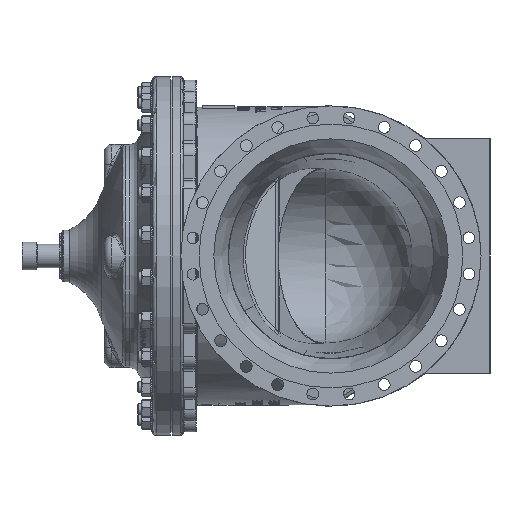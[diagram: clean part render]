
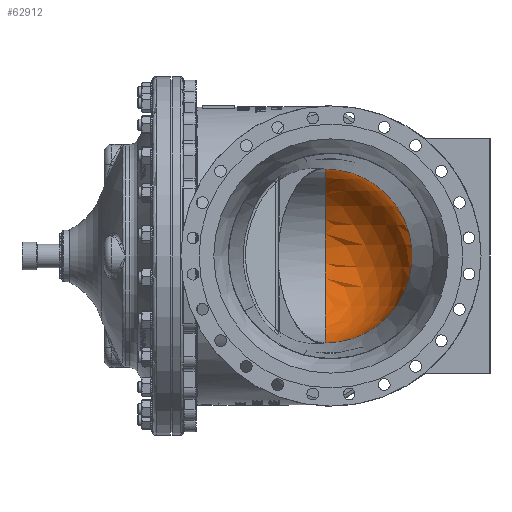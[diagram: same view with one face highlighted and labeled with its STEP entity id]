
A CAD part, left-side view. The second image highlights one B-rep face of the part: STEP entity #62912.
In plain terms, the highlighted spherical face has radius 298 mm.
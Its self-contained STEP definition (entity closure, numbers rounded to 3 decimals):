
#16=SPHERICAL_SURFACE('',#67753,298.);
#12570=FACE_OUTER_BOUND('',#16683,.T.);
#16683=EDGE_LOOP('',(#47793,#47794,#47795,#47796,#47797,#47798,#47799,#47800));
#19333=CIRCLE('',#66028,298.);
#19655=CIRCLE('',#66803,298.);
#19656=CIRCLE('',#66804,298.);
#19657=CIRCLE('',#66805,298.);
#20234=CIRCLE('',#67746,298.);
#20235=CIRCLE('',#67747,298.);
#20236=CIRCLE('',#67749,297.617);
#20237=CIRCLE('',#67751,297.617);
#23587=VERTEX_POINT('',#92193);
#23588=VERTEX_POINT('',#92195);
#24852=VERTEX_POINT('',#151020);
#24853=VERTEX_POINT('',#151025);
#24854=VERTEX_POINT('',#151027);
#24855=VERTEX_POINT('',#151029);
#25528=VERTEX_POINT('',#169200);
#25529=VERTEX_POINT('',#169222);
#30505=EDGE_CURVE('',#23587,#23588,#19333,.T.);
#32355=EDGE_CURVE('',#24852,#24853,#19655,.T.);
#32356=EDGE_CURVE('',#24853,#24854,#19656,.T.);
#32357=EDGE_CURVE('',#24854,#24855,#19657,.T.);
#33596=EDGE_CURVE('',#24855,#25528,#20234,.T.);
#33599=EDGE_CURVE('',#25529,#24852,#20235,.T.);
#33600=EDGE_CURVE('',#23587,#25528,#20236,.T.);
#33601=EDGE_CURVE('',#25529,#23588,#20237,.T.);
#47793=ORIENTED_EDGE('',*,*,#33599,.F.);
#47794=ORIENTED_EDGE('',*,*,#33601,.T.);
#47795=ORIENTED_EDGE('',*,*,#30505,.F.);
#47796=ORIENTED_EDGE('',*,*,#33600,.T.);
#47797=ORIENTED_EDGE('',*,*,#33596,.F.);
#47798=ORIENTED_EDGE('',*,*,#32357,.F.);
#47799=ORIENTED_EDGE('',*,*,#32356,.F.);
#47800=ORIENTED_EDGE('',*,*,#32355,.F.);
#62912=ADVANCED_FACE('',(#12570),#16,.F.);
#66028=AXIS2_PLACEMENT_3D('',#92196,#74657,#74658);
#66803=AXIS2_PLACEMENT_3D('',#151026,#76946,#76947);
#66804=AXIS2_PLACEMENT_3D('',#151028,#76948,#76949);
#66805=AXIS2_PLACEMENT_3D('',#151030,#76950,#76951);
#67746=AXIS2_PLACEMENT_3D('',#169201,#79101,#79102);
#67747=AXIS2_PLACEMENT_3D('',#169227,#79103,#79104);
#67749=AXIS2_PLACEMENT_3D('',#169229,#79107,#79108);
#67751=AXIS2_PLACEMENT_3D('',#169231,#79111,#79112);
#67753=AXIS2_PLACEMENT_3D('',#169289,#79115,#79116);
#74657=DIRECTION('center_axis',(0.,-1.,0.));
#74658=DIRECTION('ref_axis',(0.,0.,
-1.));
#76946=DIRECTION('center_axis',(1.,0.,0.));
#76947=DIRECTION('ref_axis',(0.,1.,0.));
#76948=DIRECTION('center_axis',(1.,0.,0.));
#76949=DIRECTION('ref_axis',(0.,1.,0.));
#76950=DIRECTION('center_axis',(1.,0.,0.));
#76951=DIRECTION('ref_axis',(0.,1.,0.));
#79101=DIRECTION('center_axis',(1.,0.,0.));
#79102=DIRECTION('ref_axis',(0.,1.,0.));
#79103=DIRECTION('center_axis',(1.,0.,0.));
#79104=DIRECTION('ref_axis',(0.,1.,0.));
#79107=DIRECTION('center_axis',(0.477,0.879,0.));
#79108=DIRECTION('ref_axis',(0.,0.,
1.));
#79111=DIRECTION('center_axis',(0.477,0.879,0.));
#79112=DIRECTION('ref_axis',(0.,0.,
1.));
#79115=DIRECTION('center_axis',(0.,0.,1.));
#79116=DIRECTION('ref_axis',(1.,0.,0.));
#92193=CARTESIAN_POINT('',(31.652,20.,-296.314));
#92195=CARTESIAN_POINT('',(31.652,20.,296.314));
#92196=CARTESIAN_POINT('Origin',(0.,20.,
0.));
#151020=CARTESIAN_POINT('',(0.,20.,298.));
#151025=CARTESIAN_POINT('',(0.,-190.718,210.718));
#151026=CARTESIAN_POINT('Origin',(0.,20.,0.));
#151027=CARTESIAN_POINT('',(0.,-190.718,-210.718));
#151028=CARTESIAN_POINT('Origin',(0.,20.,0.));
#151029=CARTESIAN_POINT('',(0.,20.,-298.));
#151030=CARTESIAN_POINT('Origin',(0.,20.,0.));
#169200=CARTESIAN_POINT('',(0.,37.179,-297.504));
#169201=CARTESIAN_POINT('Origin',(0.,20.,0.));
#169222=CARTESIAN_POINT('',(0.,37.179,297.504));
#169227=CARTESIAN_POINT('Origin',(0.,20.,0.));
#169229=CARTESIAN_POINT('Origin',(7.202,33.27,0.));
#169231=CARTESIAN_POINT('Origin',(7.202,33.27,0.));
#169289=CARTESIAN_POINT('Origin',(0.,20.,0.));
